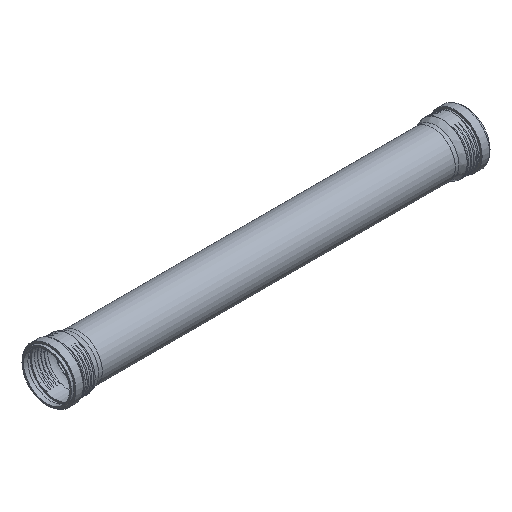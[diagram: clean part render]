
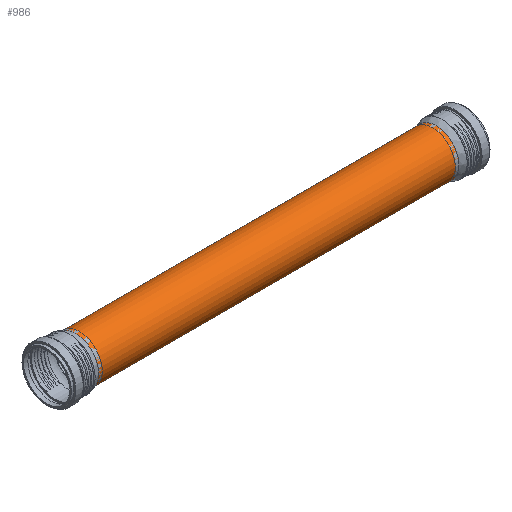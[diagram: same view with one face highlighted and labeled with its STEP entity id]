
A CAD part, isometric view. The second image highlights one B-rep face of the part: STEP entity #986.
In plain terms, the highlighted cylindrical face has radius 62.6 mm (diameter 125.2 mm), a full revolution.
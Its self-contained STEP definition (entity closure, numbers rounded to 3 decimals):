
#138=FACE_BOUND('',#266,.T.);
#202=FACE_OUTER_BOUND('',#265,.T.);
#265=EDGE_LOOP('',(#661));
#266=EDGE_LOOP('',(#662));
#389=CIRCLE('',#1065,62.6);
#390=CIRCLE('',#1067,62.6);
#437=VERTEX_POINT('',#1418);
#438=VERTEX_POINT('',#1421);
#541=EDGE_CURVE('',#437,#437,#389,.T.);
#542=EDGE_CURVE('',#438,#438,#390,.T.);
#661=ORIENTED_EDGE('',*,*,#541,.F.);
#662=ORIENTED_EDGE('',*,*,#542,.F.);
#894=CYLINDRICAL_SURFACE('',#1066,62.6);
#986=ADVANCED_FACE('',(#202,#138),#894,.T.);
#1065=AXIS2_PLACEMENT_3D('',#1419,#1187,#1188);
#1066=AXIS2_PLACEMENT_3D('',#1420,#1189,#1190);
#1067=AXIS2_PLACEMENT_3D('',#1422,#1191,#1192);
#1187=DIRECTION('center_axis',(-1.,0.,0.));
#1188=DIRECTION('ref_axis',(0.,-1.,0.));
#1189=DIRECTION('center_axis',(1.,0.,0.));
#1190=DIRECTION('ref_axis',(0.,-1.,0.));
#1191=DIRECTION('center_axis',(1.,0.,0.));
#1192=DIRECTION('ref_axis',(0.,-1.,0.));
#1418=CARTESIAN_POINT('',(-493.9,62.6,0.));
#1419=CARTESIAN_POINT('Origin',(-493.9,0.,0.));
#1420=CARTESIAN_POINT('Origin',(0.,0.,0.));
#1421=CARTESIAN_POINT('',(493.9,62.6,0.));
#1422=CARTESIAN_POINT('Origin',(493.9,0.,0.));
